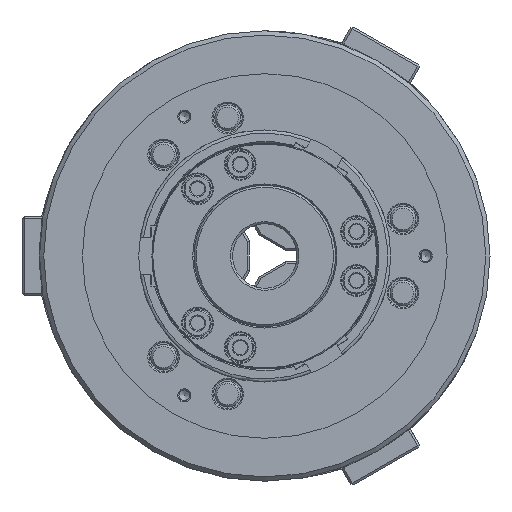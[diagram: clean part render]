
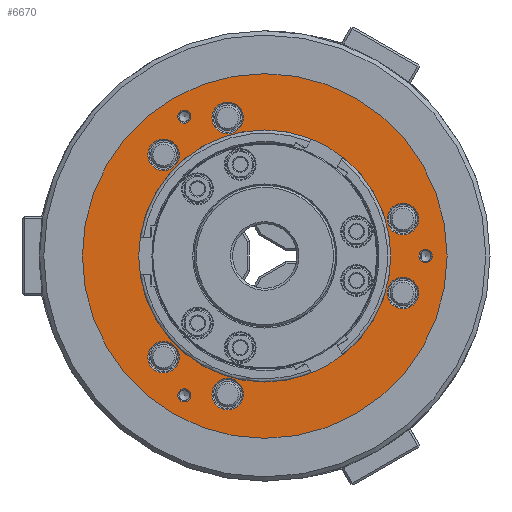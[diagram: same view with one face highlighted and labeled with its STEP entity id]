
A CAD part, left-side view. The second image highlights one B-rep face of the part: STEP entity #6670.
In plain terms, the highlighted planar face has unit normal (-1, 0, 0).
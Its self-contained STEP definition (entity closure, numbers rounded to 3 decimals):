
#298 = DIRECTION ( 'NONE',  ( -1., 0., 0. ) ) ;
#572 = CARTESIAN_POINT ( 'NONE',  ( -86., 47.146, -54.496 ) ) ;
#3404 = AXIS2_PLACEMENT_3D ( 'NONE', #72116, #33302, #50244 ) ;
#3719 = DIRECTION ( 'NONE',  ( 1., 0., 0. ) ) ;
#4880 = EDGE_LOOP ( 'NONE', ( #59393 ) ) ;
#5141 = FACE_OUTER_BOUND ( 'NONE', #4880, .T. ) ;
#6427 = EDGE_LOOP ( 'NONE', ( #6566 ) ) ;
#6566 = ORIENTED_EDGE ( 'NONE', *, *, #62580, .T. ) ;
#6670 = ADVANCED_FACE ( 'NONE', ( #48706, #27281, #20684, #15863, #49785, #54640, #9587, #65727, #60173, #38376, #5141 ), #21025, .F. ) ;
#6912 = ORIENTED_EDGE ( 'NONE', *, *, #29938, .T. ) ;
#7347 = CIRCLE ( 'NONE', #59298, 7.35 ) ;
#7491 = EDGE_LOOP ( 'NONE', ( #6912 ) ) ;
#9587 = FACE_BOUND ( 'NONE', #14166, .T. ) ;
#9699 = CARTESIAN_POINT ( 'NONE',  ( -86., 47.146, 39.796 ) ) ;
#10307 = CARTESIAN_POINT ( 'NONE',  ( -86., 85., 0. ) ) ;
#10852 = ORIENTED_EDGE ( 'NONE', *, *, #37307, .F. ) ;
#11146 = AXIS2_PLACEMENT_3D ( 'NONE', #24821, #45845, #12626 ) ;
#11981 = AXIS2_PLACEMENT_3D ( 'NONE', #53782, #43407, #12911 ) ;
#12607 = EDGE_CURVE ( 'NONE', #64138, #64138, #26127, .T. ) ;
#12626 = DIRECTION ( 'NONE',  ( 0., 0., 1. ) ) ;
#12911 = DIRECTION ( 'NONE',  ( 0., 0., 1. ) ) ;
#13124 = EDGE_CURVE ( 'NONE', #53031, #53031, #15179, .T. ) ;
#14166 = EDGE_LOOP ( 'NONE', ( #51918 ) ) ;
#14627 = CARTESIAN_POINT ( 'NONE',  ( -86., 0., 85. ) ) ;
#15136 = ORIENTED_EDGE ( 'NONE', *, *, #12607, .T. ) ;
#15179 = CIRCLE ( 'NONE', #56452, 7.35 ) ;
#15863 = FACE_BOUND ( 'NONE', #7491, .T. ) ;
#19805 = DIRECTION ( 'NONE',  ( 1., 0., 0. ) ) ;
#20481 = CIRCLE ( 'NONE', #70073, 3.1 ) ;
#20684 = FACE_BOUND ( 'NONE', #6427, .T. ) ;
#21025 = PLANE ( 'NONE',  #50099 ) ;
#23221 = EDGE_CURVE ( 'NONE', #70769, #70769, #61468, .T. ) ;
#23497 = EDGE_LOOP ( 'NONE', ( #15136 ) ) ;
#24146 = EDGE_LOOP ( 'NONE', ( #70465 ) ) ;
#24429 = VERTEX_POINT ( 'NONE', #34793 ) ;
#24821 = CARTESIAN_POINT ( 'NONE',  ( -86., 0., 0. ) ) ;
#25597 = CARTESIAN_POINT ( 'NONE',  ( -86., 17.257, 57.053 ) ) ;
#25960 = DIRECTION ( 'NONE',  ( 0., 0., 1. ) ) ;
#26127 = CIRCLE ( 'NONE', #67423, 7.35 ) ;
#26222 = CARTESIAN_POINT ( 'NONE',  ( -86., 37.5, 68.052 ) ) ;
#27281 = FACE_BOUND ( 'NONE', #52452, .T. ) ;
#27316 = DIRECTION ( 'NONE',  ( 0., 0., -1. ) ) ;
#27649 = DIRECTION ( 'NONE',  ( 1., 0., 0. ) ) ;
#28585 = VERTEX_POINT ( 'NONE', #572 ) ;
#29388 = EDGE_LOOP ( 'NONE', ( #72416 ) ) ;
#29938 = EDGE_CURVE ( 'NONE', #28585, #28585, #7347, .T. ) ;
#29968 = DIRECTION ( 'NONE',  ( -1., 0., 0. ) ) ;
#30796 = CARTESIAN_POINT ( 'NONE',  ( -86., 37.5, -64.952 ) ) ;
#31278 = DIRECTION ( 'NONE',  ( 0., 0., -1. ) ) ;
#31643 = DIRECTION ( 'NONE',  ( 1., 0., 0. ) ) ;
#32026 = DIRECTION ( 'NONE',  ( 0., 0., -1. ) ) ;
#32150 = VERTEX_POINT ( 'NONE', #26222 ) ;
#32367 = CARTESIAN_POINT ( 'NONE',  ( -86., 47.146, 47.146 ) ) ;
#32868 = CARTESIAN_POINT ( 'NONE',  ( -86., -64.403, -17.257 ) ) ;
#33050 = VERTEX_POINT ( 'NONE', #34152 ) ;
#33302 = DIRECTION ( 'NONE',  ( 1., 0., 0. ) ) ;
#34152 = CARTESIAN_POINT ( 'NONE',  ( -86., 0., 58.75 ) ) ;
#34793 = CARTESIAN_POINT ( 'NONE',  ( -86., 37.5, -61.852 ) ) ;
#35134 = VERTEX_POINT ( 'NONE', #69141 ) ;
#35702 = AXIS2_PLACEMENT_3D ( 'NONE', #58013, #29968, #52470 ) ;
#37307 = EDGE_CURVE ( 'NONE', #33050, #33050, #53637, .T. ) ;
#38376 = FACE_BOUND ( 'NONE', #66188, .T. ) ;
#40082 = EDGE_LOOP ( 'NONE', ( #58830 ) ) ;
#41216 = CARTESIAN_POINT ( 'NONE',  ( -86., -64.403, 9.907 ) ) ;
#42399 = AXIS2_PLACEMENT_3D ( 'NONE', #32367, #65607, #31278 ) ;
#42592 = CARTESIAN_POINT ( 'NONE',  ( -86., -64.403, 17.257 ) ) ;
#43407 = DIRECTION ( 'NONE',  ( -1., 0., 0. ) ) ;
#43649 = VERTEX_POINT ( 'NONE', #25597 ) ;
#44593 = ORIENTED_EDGE ( 'NONE', *, *, #53240, .F. ) ;
#45845 = DIRECTION ( 'NONE',  ( -1., 0., 0. ) ) ;
#45985 = EDGE_LOOP ( 'NONE', ( #62671 ) ) ;
#48188 = CIRCLE ( 'NONE', #3404, 7.35 ) ;
#48273 = CIRCLE ( 'NONE', #42399, 7.35 ) ;
#48529 = EDGE_CURVE ( 'NONE', #65116, #65116, #48273, .T. ) ;
#48706 = FACE_BOUND ( 'NONE', #40082, .T. ) ;
#49272 = CIRCLE ( 'NONE', #70586, 3.1 ) ;
#49785 = FACE_BOUND ( 'NONE', #29388, .T. ) ;
#50099 = AXIS2_PLACEMENT_3D ( 'NONE', #10307, #27649, #72387 ) ;
#50244 = DIRECTION ( 'NONE',  ( 0., 0., -1. ) ) ;
#50831 = CARTESIAN_POINT ( 'NONE',  ( -86., 37.5, 64.952 ) ) ;
#51918 = ORIENTED_EDGE ( 'NONE', *, *, #65335, .F. ) ;
#52452 = EDGE_LOOP ( 'NONE', ( #44593 ) ) ;
#52470 = DIRECTION ( 'NONE',  ( 0., 0., 1. ) ) ;
#53031 = VERTEX_POINT ( 'NONE', #70061 ) ;
#53240 = EDGE_CURVE ( 'NONE', #65497, #65497, #64024, .T. ) ;
#53411 = CARTESIAN_POINT ( 'NONE',  ( -86., 17.257, 64.403 ) ) ;
#53637 = CIRCLE ( 'NONE', #11146, 58.75 ) ;
#53782 = CARTESIAN_POINT ( 'NONE',  ( -86., 0., 0. ) ) ;
#53807 = CARTESIAN_POINT ( 'NONE',  ( -86., 47.146, -47.146 ) ) ;
#54111 = EDGE_CURVE ( 'NONE', #43649, #43649, #67594, .T. ) ;
#54640 = FACE_BOUND ( 'NONE', #45985, .T. ) ;
#56452 = AXIS2_PLACEMENT_3D ( 'NONE', #32868, #3719, #27316 ) ;
#58013 = CARTESIAN_POINT ( 'NONE',  ( -86., -75., 0. ) ) ;
#58146 = AXIS2_PLACEMENT_3D ( 'NONE', #53411, #19805, #59319 ) ;
#58830 = ORIENTED_EDGE ( 'NONE', *, *, #71245, .F. ) ;
#58854 = DIRECTION ( 'NONE',  ( -1., 0., 0. ) ) ;
#58855 = DIRECTION ( 'NONE',  ( 0., 0., -1. ) ) ;
#59298 = AXIS2_PLACEMENT_3D ( 'NONE', #53807, #31643, #32026 ) ;
#59319 = DIRECTION ( 'NONE',  ( 0., 0., -1. ) ) ;
#59393 = ORIENTED_EDGE ( 'NONE', *, *, #23221, .T. ) ;
#59915 = CARTESIAN_POINT ( 'NONE',  ( -86., -75., 3.1 ) ) ;
#60173 = FACE_BOUND ( 'NONE', #24146, .T. ) ;
#61468 = CIRCLE ( 'NONE', #11981, 85. ) ;
#62580 = EDGE_CURVE ( 'NONE', #35134, #35134, #48188, .T. ) ;
#62671 = ORIENTED_EDGE ( 'NONE', *, *, #54111, .T. ) ;
#64024 = CIRCLE ( 'NONE', #35702, 3.1 ) ;
#64138 = VERTEX_POINT ( 'NONE', #41216 ) ;
#65116 = VERTEX_POINT ( 'NONE', #9699 ) ;
#65127 = DIRECTION ( 'NONE',  ( 1., 0., 0. ) ) ;
#65335 = EDGE_CURVE ( 'NONE', #24429, #24429, #49272, .T. ) ;
#65497 = VERTEX_POINT ( 'NONE', #59915 ) ;
#65607 = DIRECTION ( 'NONE',  ( 1., 0., 0. ) ) ;
#65727 = FACE_BOUND ( 'NONE', #23497, .T. ) ;
#66188 = EDGE_LOOP ( 'NONE', ( #10852 ) ) ;
#67423 = AXIS2_PLACEMENT_3D ( 'NONE', #42592, #65127, #58855 ) ;
#67594 = CIRCLE ( 'NONE', #58146, 7.35 ) ;
#68616 = DIRECTION ( 'NONE',  ( 0., 0., 1. ) ) ;
#69141 = CARTESIAN_POINT ( 'NONE',  ( -86., 17.257, -71.753 ) ) ;
#70061 = CARTESIAN_POINT ( 'NONE',  ( -86., -64.403, -24.607 ) ) ;
#70073 = AXIS2_PLACEMENT_3D ( 'NONE', #50831, #298, #68616 ) ;
#70465 = ORIENTED_EDGE ( 'NONE', *, *, #13124, .T. ) ;
#70586 = AXIS2_PLACEMENT_3D ( 'NONE', #30796, #58854, #25960 ) ;
#70769 = VERTEX_POINT ( 'NONE', #14627 ) ;
#71245 = EDGE_CURVE ( 'NONE', #32150, #32150, #20481, .T. ) ;
#72116 = CARTESIAN_POINT ( 'NONE',  ( -86., 17.257, -64.403 ) ) ;
#72387 = DIRECTION ( 'NONE',  ( 0., 0., -1. ) ) ;
#72416 = ORIENTED_EDGE ( 'NONE', *, *, #48529, .T. ) ;
